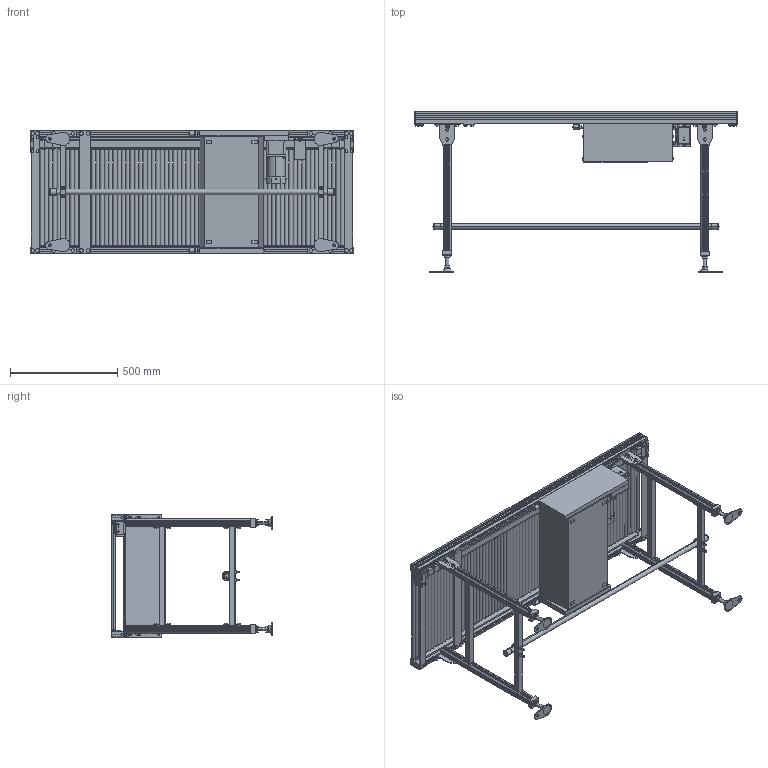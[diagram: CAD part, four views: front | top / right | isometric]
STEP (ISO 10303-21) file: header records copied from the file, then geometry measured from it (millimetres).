
FILE_DESCRIPTION( (''), '2;1');
FILE_NAME ('MRA1-309-500-150-K-180-O.stp','2025-02-17T14:07:12',(''),(''),'spGate 20.6.2 (****-****-****-****)','','');
FILE_SCHEMA (('AUTOMOTIVE_DESIGN'));
Length unit declared in the file: millimetre
Products named in the file (52): NewModel; MRA1-309-500-150-K-180-O; TEMP_X_T-prt0; TEMP_X_T-prt1; TEMP_X_T-prt2; TEMP_X_T-prt3; TEMP_X_T-prt4; TEMP_X_T-prt5; TEMP_X_T-prt6; TEMP_X_T-prt7; TEMP_X_T-prt8; TEMP_X_T-prt9; TEMP_X_T-prt10; TEMP_X_T-prt11; TEMP_X_T-prt12; TEMP_X_T-prt13; TEMP_X_T-prt14; TEMP_X_T-prt15; TEMP_X_T-prt16; TEMP_X_T-prt17; TEMP_X_T-prt18; TEMP_X_T-prt19; TEMP_X_T-prt20; TEMP_X_T-prt21; TEMP_X_T-prt22; TEMP_X_T-prt23; TEMP_X_T-prt24; TEMP_X_T-prt25; TEMP_X_T-prt26; TEMP_X_T-prt27; TEMP_X_T-prt28; TEMP_X_T-prt29; TEMP_X_T-prt30; TEMP_X_T-prt31; TEMP_X_T-prt32; TEMP_X_T-prt33; TEMP_X_T-prt34; TEMP_X_T-prt35; TEMP_X_T-prt36; TEMP_X_T-prt37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
Assembly tree (51 placements, depth 3):
  NewModel
    MRA1-309-500-150-K-180-O
      TEMP_X_T-prt0
      TEMP_X_T-prt1
      TEMP_X_T-prt2
      TEMP_X_T-prt3
      TEMP_X_T-prt4
      TEMP_X_T-prt5
      TEMP_X_T-prt6
      TEMP_X_T-prt7
      TEMP_X_T-prt8
      TEMP_X_T-prt9
      TEMP_X_T-prt10
      TEMP_X_T-prt11
      TEMP_X_T-prt12
      TEMP_X_T-prt13
      TEMP_X_T-prt14
      TEMP_X_T-prt15
      TEMP_X_T-prt16
      TEMP_X_T-prt17
      TEMP_X_T-prt18
      TEMP_X_T-prt19
      TEMP_X_T-prt20
      TEMP_X_T-prt21
      TEMP_X_T-prt22
      TEMP_X_T-prt23
      TEMP_X_T-prt24
      TEMP_X_T-prt25
      TEMP_X_T-prt26
      TEMP_X_T-prt27
      TEMP_X_T-prt28
      TEMP_X_T-prt29
      TEMP_X_T-prt30
      TEMP_X_T-prt31
      TEMP_X_T-prt32
      TEMP_X_T-prt33
      TEMP_X_T-prt34
      TEMP_X_T-prt35
      TEMP_X_T-prt36
      TEMP_X_T-prt37
      TEMP_X_T-prt38
      TEMP_X_T-prt39
      TEMP_X_T-prt40
      TEMP_X_T-prt41
      TEMP_X_T-prt42
      TEMP_X_T-prt43
      TEMP_X_T-prt44
      TEMP_X_T-prt45
      TEMP_X_T-prt46
      TEMP_X_T-prt47
      TEMP_X_T-prt48
      TEMP_X_T-prt49
Bounding box: 1510 x 752.5 x 570 mm (x, y, z)
Volume: 52380823.7 mm3; surface area: 5723425.8 mm2
Topology: 50 solids, 50 shells, 2988 faces, 7202 edges, 4637 vertices
Faces by surface type: plane 1823, cylinder 977, bspline 184, sphere 4
Entity records: 148623 total; most frequent: CARTESIAN_POINT 19195, ORIENTED_EDGE 14364, DIRECTION 14117, COLOUR_RGB 10220, PRESENTATION_STYLE_ASSIGNMENT 10220, STYLED_ITEM 10220, EDGE_CURVE 7182, DRAUGHTING_PRE_DEFINED_CURVE_FONT 7182
